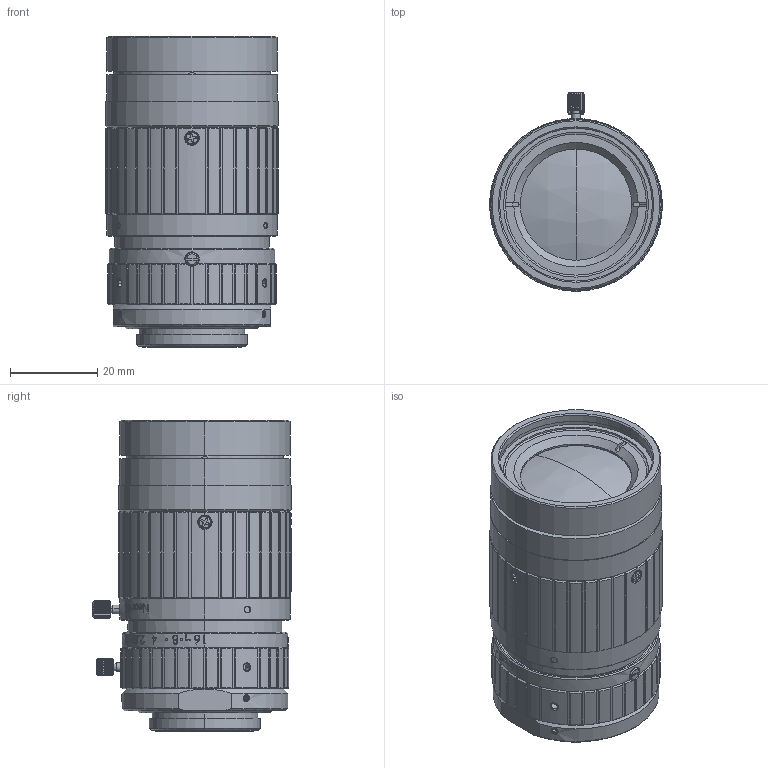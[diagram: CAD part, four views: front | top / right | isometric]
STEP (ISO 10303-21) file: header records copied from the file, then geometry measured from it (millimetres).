
FILE_DESCRIPTION (( 'STEP AP203' ), '1' );
FILE_NAME ('A24787A0000101A.STEP', '2023-10-18T02:20:02', ( '' ), ( '' ), 'SwSTEP 2.0', 'SolidWorks 2020', '' );
FILE_SCHEMA (( 'CONFIG_CONTROL_DESIGN' ));
Length unit declared in the file: millimetre
Products named in the file (1): A24787A0000101A
Bounding box: 39.5 x 45.39 x 71.25 mm (x, y, z)
Volume: 76699.7 mm3; surface area: 13207 mm2
Topology: 1 solids, 2 shells, 1215 faces, 3303 edges, 2169 vertices
Faces by surface type: plane 509, cylinder 371, bspline 206, cone 117, sphere 8, torus 4
Entity records: 58871 total; most frequent: CARTESIAN_POINT 31472, ORIENTED_EDGE 6606, DIRECTION 4309, EDGE_CURVE 3303, VERTEX_POINT 2169, AXIS2_PLACEMENT_3D 1675, B_SPLINE_CURVE_WITH_KNOTS 1653, EDGE_LOOP 1294
